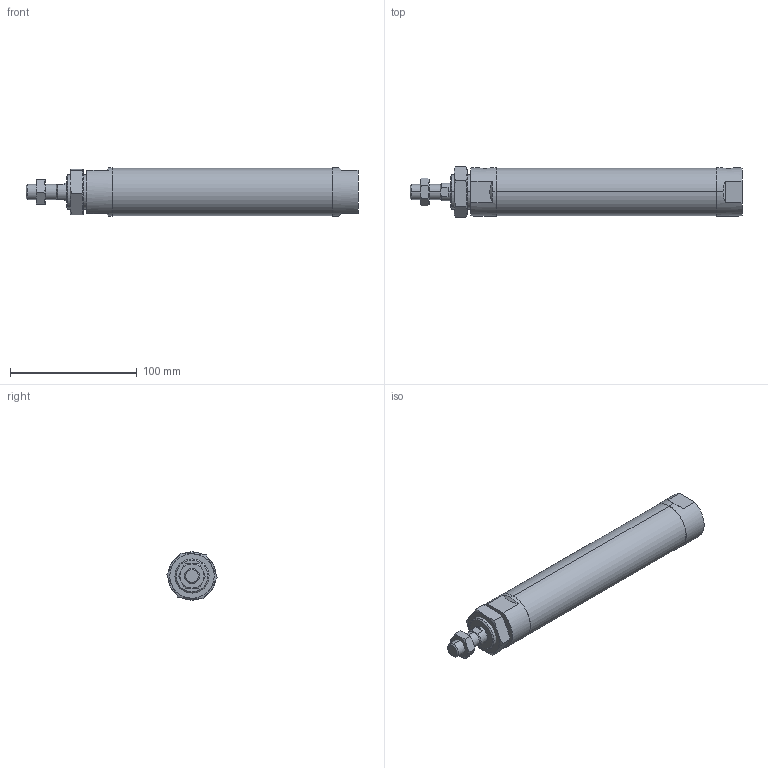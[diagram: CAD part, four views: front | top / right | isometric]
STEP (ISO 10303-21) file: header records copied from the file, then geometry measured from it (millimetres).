
FILE_DESCRIPTION (( 'STEP AP203' ), '1' );
FILE_NAME ('JGND2-32-125-N.STEP', '2016-08-04T02:53:42', ( '' ), ( '' ), 'SwSTEP 2.0', 'SolidWorks 2014', '' );
FILE_SCHEMA (( 'CONFIG_CONTROL_DESIGN' ));
Length unit declared in the file: millimetre
Products named in the file (4): JGND2-32-125-N; J#2-32-125(P)
Assembly tree (3 placements, depth 2):
  JGND2-32-125-N
    J#2-32-125(P)
    (unnamed)
    (unnamed)
Bounding box: 262 x 40.33 x 38 mm (x, y, z)
Volume: 254576.9 mm3; surface area: 35481.5 mm2
Topology: 3 solids, 3 shells, 89 faces, 200 edges, 119 vertices
Faces by surface type: plane 32, torus 24, cylinder 20, cone 13
Entity records: 3321 total; most frequent: CARTESIAN_POINT 1017, DIRECTION 395, ORIENTED_EDGE 392, EDGE_CURVE 196, AXIS2_PLACEMENT_3D 167, VERTEX_POINT 119, EDGE_LOOP 99, FACE_OUTER_BOUND 89
